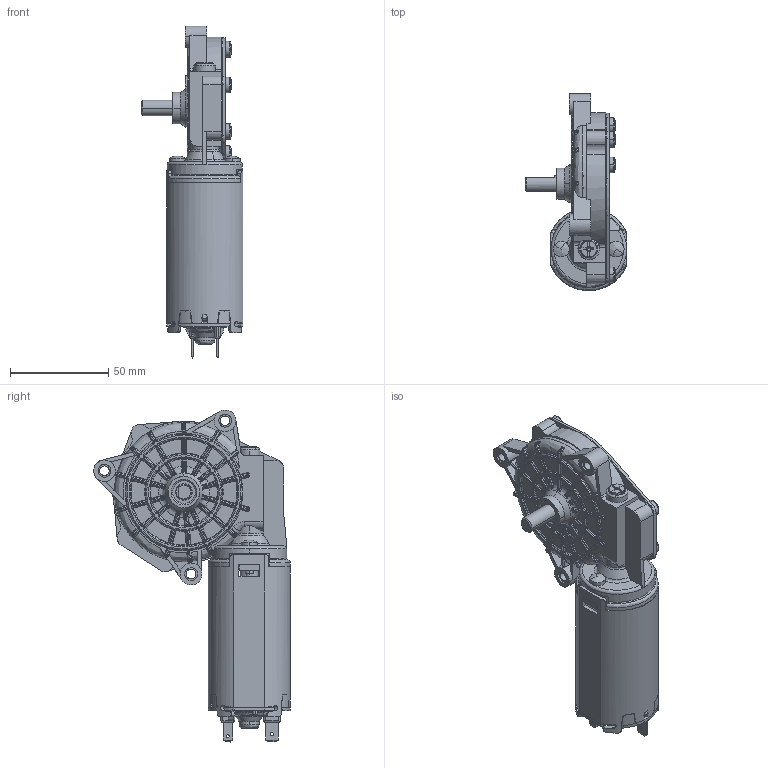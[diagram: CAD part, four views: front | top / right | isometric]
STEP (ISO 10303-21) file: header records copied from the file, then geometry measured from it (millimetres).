
FILE_DESCRIPTION (( 'STEP AP214' ), '1' );
FILE_NAME ('10000018739_01_WIPERMOTOR SWMP.STEP', '2017-02-21T08:48:34', ( 'EDV' ), ( 'Hewlett-Packard Company' ), 'SwSTEP 2.0', 'SolidWorks 2016', '' );
FILE_SCHEMA (( 'AUTOMOTIVE_DESIGN' ));
Length unit declared in the file: millimetre
Products named in the file (1): 10000018739_01_WIPERMOTOR SWMP
Bounding box: 52 x 100.37 x 169.37 mm (x, y, z)
Surface area: 75734.7 mm2 (no closed solid volume)
Topology: 0 solids, 27 shells, 4057 faces, 10808 edges, 6680 vertices
Faces by surface type: plane 1534, cylinder 1265, bspline 1123, cone 135
Entity records: 174784 total; most frequent: CARTESIAN_POINT 84310, ORIENTED_EDGE 21256, DIRECTION 15751, EDGE_CURVE 10630, VERTEX_POINT 6680, AXIS2_PLACEMENT_3D 5621, VECTOR 4509, LINE 4509
